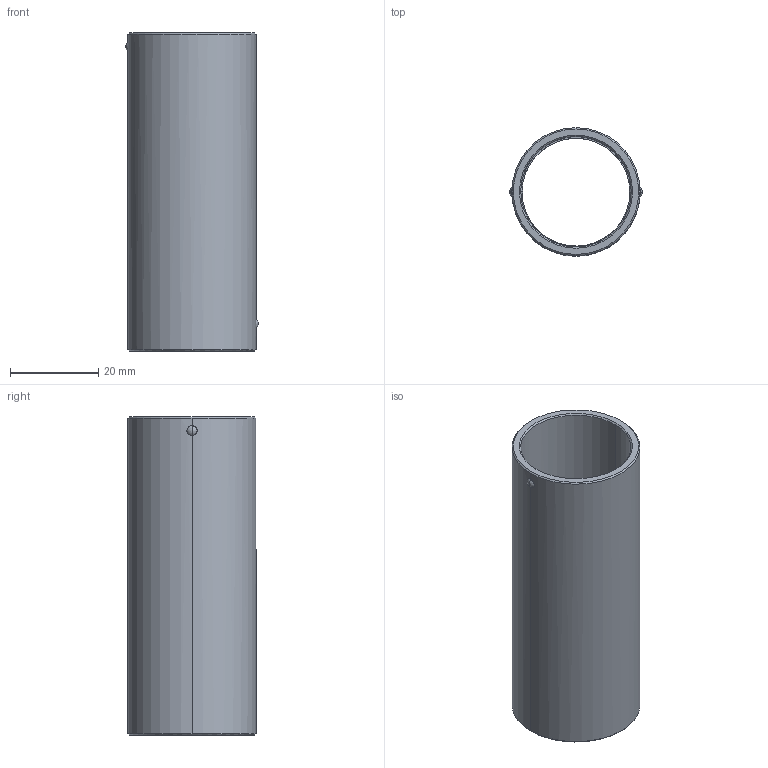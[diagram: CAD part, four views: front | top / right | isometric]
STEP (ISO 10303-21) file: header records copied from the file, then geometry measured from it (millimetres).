
FILE_DESCRIPTION(('CATIA V5 STEP Exchange'),'2;1');
FILE_NAME('C:\Users\Utente\Desktop\IO LAVORO\3D X SITO CF\X SITO\730\730-24x72.stp','2021-01-07T16:15:20+00:00',('none'),('none'),'CATIA Version 5 Release 20 GA (IN-10)','CATIA V5 STEP AP203','none');
FILE_SCHEMA(('CONFIG_CONTROL_DESIGN'));
Length unit declared in the file: millimetre
Products named in the file (1): 730-24x72
Bounding box: 30 x 29 x 72 mm (x, y, z)
Volume: 11838.3 mm3; surface area: 12730.3 mm2
Topology: 1 solids, 1 shells, 44 faces, 120 edges, 76 vertices
Faces by surface type: cylinder 18, cone 10, plane 8, sphere 8
Entity records: 1724 total; most frequent: CARTESIAN_POINT 657, ORIENTED_EDGE 240, DIRECTION 161, EDGE_CURVE 120, AXIS2_PLACEMENT_3D 80, VERTEX_POINT 76, EDGE_LOOP 48, B_SPLINE_CURVE_WITH_KNOTS 47
